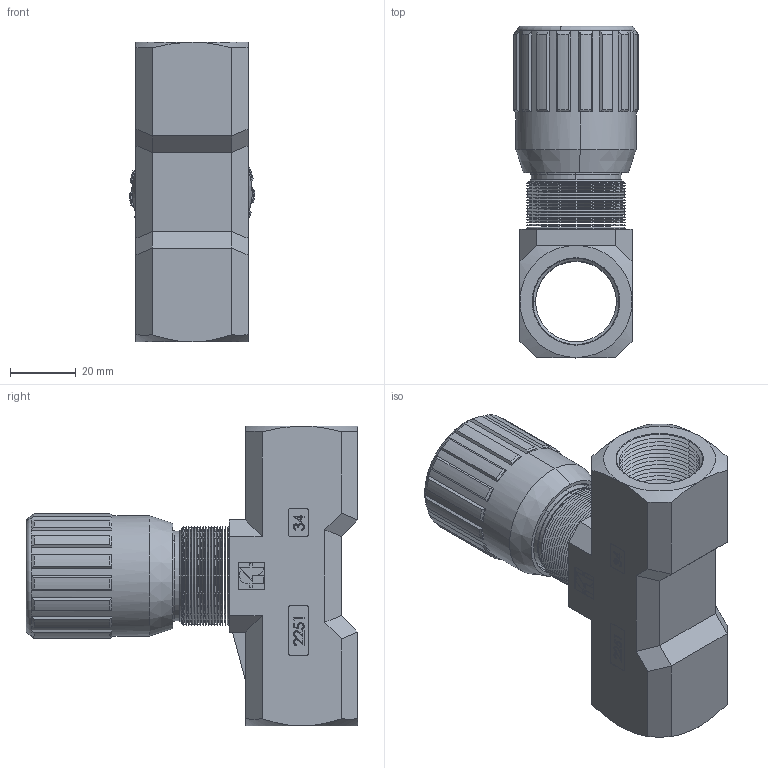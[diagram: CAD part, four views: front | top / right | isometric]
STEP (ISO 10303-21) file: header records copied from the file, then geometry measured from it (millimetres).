
FILE_DESCRIPTION (( 'STEP AP214' ), '1' );
FILE_NAME ('FT2251-2-34.STEP', '2015-04-15T19:34:52', ( '' ), ( '' ), 'SwSTEP 2.0', 'SolidWorks 2014', '' );
FILE_SCHEMA (( 'AUTOMOTIVE_DESIGN' ));
Length unit declared in the file: millimetre
Products named in the file (1): FT2251-2-34
Bounding box: 37.99 x 100.6 x 91 mm (x, y, z)
Surface area: 30302.9 mm2 (no closed solid volume)
Topology: 0 solids, 21 shells, 579 faces, 1901 edges, 1280 vertices
Faces by surface type: plane 270, cone 218, cylinder 62, bspline 27, torus 2
Entity records: 29359 total; most frequent: CARTESIAN_POINT 6795, DIRECTION 3244, ORIENTED_EDGE 3151, EDGE_CURVE 1901, VERTEX_POINT 1280, VECTOR 1246, LINE 1246, AXIS2_PLACEMENT_3D 999
